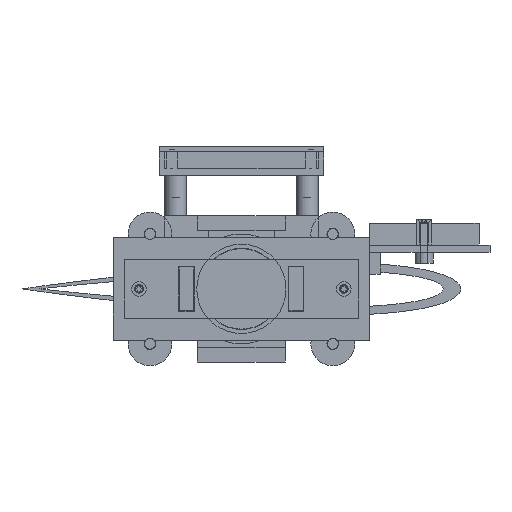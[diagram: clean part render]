
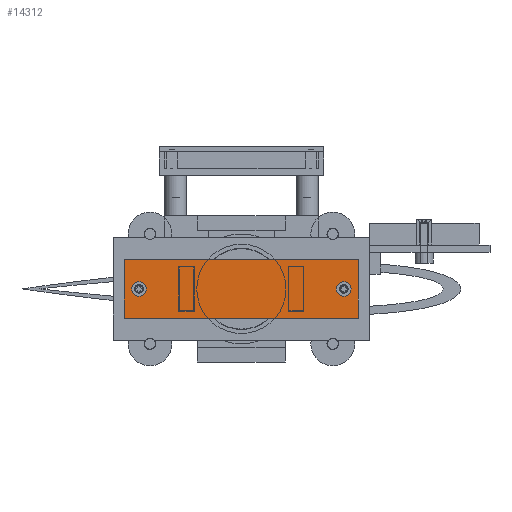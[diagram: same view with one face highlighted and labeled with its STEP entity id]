
A CAD part, front view. The second image highlights one B-rep face of the part: STEP entity #14312.
In plain terms, the highlighted planar face has unit normal (0, -1, 0).
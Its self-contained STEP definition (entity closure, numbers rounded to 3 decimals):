
#14276 = EDGE_CURVE('',#14277,#14279,#14281,.T.);
#14277 = VERTEX_POINT('',#14278);
#14278 = CARTESIAN_POINT('',(-32.,-329.,-8.));
#14279 = VERTEX_POINT('',#14280);
#14280 = CARTESIAN_POINT('',(-32.,-329.,8.));
#14281 = LINE('',#14282,#14283);
#14282 = CARTESIAN_POINT('',(-32.,-329.,-8.));
#14283 = VECTOR('',#14284,1.);
#14284 = DIRECTION('',(0.,0.,1.));
#14312 = ADVANCED_FACE('',(#14313,#14338,#14349),#14360,.F.);
#14313 = FACE_BOUND('',#14314,.F.);
#14314 = EDGE_LOOP('',(#14315,#14323,#14324,#14332));
#14315 = ORIENTED_EDGE('',*,*,#14316,.F.);
#14316 = EDGE_CURVE('',#14277,#14317,#14319,.T.);
#14317 = VERTEX_POINT('',#14318);
#14318 = CARTESIAN_POINT('',(32.,-329.,-8.));
#14319 = LINE('',#14320,#14321);
#14320 = CARTESIAN_POINT('',(-32.,-329.,-8.));
#14321 = VECTOR('',#14322,1.);
#14322 = DIRECTION('',(1.,0.,0.));
#14323 = ORIENTED_EDGE('',*,*,#14276,.T.);
#14324 = ORIENTED_EDGE('',*,*,#14325,.T.);
#14325 = EDGE_CURVE('',#14279,#14326,#14328,.T.);
#14326 = VERTEX_POINT('',#14327);
#14327 = CARTESIAN_POINT('',(32.,-329.,8.));
#14328 = LINE('',#14329,#14330);
#14329 = CARTESIAN_POINT('',(-32.,-329.,8.));
#14330 = VECTOR('',#14331,1.);
#14331 = DIRECTION('',(1.,0.,0.));
#14332 = ORIENTED_EDGE('',*,*,#14333,.F.);
#14333 = EDGE_CURVE('',#14317,#14326,#14334,.T.);
#14334 = LINE('',#14335,#14336);
#14335 = CARTESIAN_POINT('',(32.,-329.,-8.));
#14336 = VECTOR('',#14337,1.);
#14337 = DIRECTION('',(0.,0.,1.));
#14338 = FACE_BOUND('',#14339,.F.);
#14339 = EDGE_LOOP('',(#14340));
#14340 = ORIENTED_EDGE('',*,*,#14341,.T.);
#14341 = EDGE_CURVE('',#14342,#14342,#14344,.T.);
#14342 = VERTEX_POINT('',#14343);
#14343 = CARTESIAN_POINT('',(-28.,-329.,-2.));
#14344 = CIRCLE('',#14345,2.);
#14345 = AXIS2_PLACEMENT_3D('',#14346,#14347,#14348);
#14346 = CARTESIAN_POINT('',(-28.,-329.,0.));
#14347 = DIRECTION('',(0.,-1.,0.));
#14348 = DIRECTION('',(0.,0.,-1.));
#14349 = FACE_BOUND('',#14350,.F.);
#14350 = EDGE_LOOP('',(#14351));
#14351 = ORIENTED_EDGE('',*,*,#14352,.T.);
#14352 = EDGE_CURVE('',#14353,#14353,#14355,.T.);
#14353 = VERTEX_POINT('',#14354);
#14354 = CARTESIAN_POINT('',(28.,-329.,-2.));
#14355 = CIRCLE('',#14356,2.);
#14356 = AXIS2_PLACEMENT_3D('',#14357,#14358,#14359);
#14357 = CARTESIAN_POINT('',(28.,-329.,0.));
#14358 = DIRECTION('',(0.,-1.,0.));
#14359 = DIRECTION('',(0.,0.,-1.));
#14360 = PLANE('',#14361);
#14361 = AXIS2_PLACEMENT_3D('',#14362,#14363,#14364);
#14362 = CARTESIAN_POINT('',(-32.,-329.,-8.));
#14363 = DIRECTION('',(0.,1.,0.));
#14364 = DIRECTION('',(0.,0.,1.));
